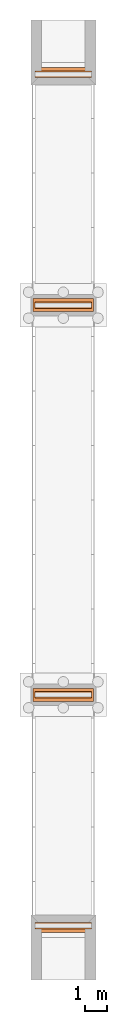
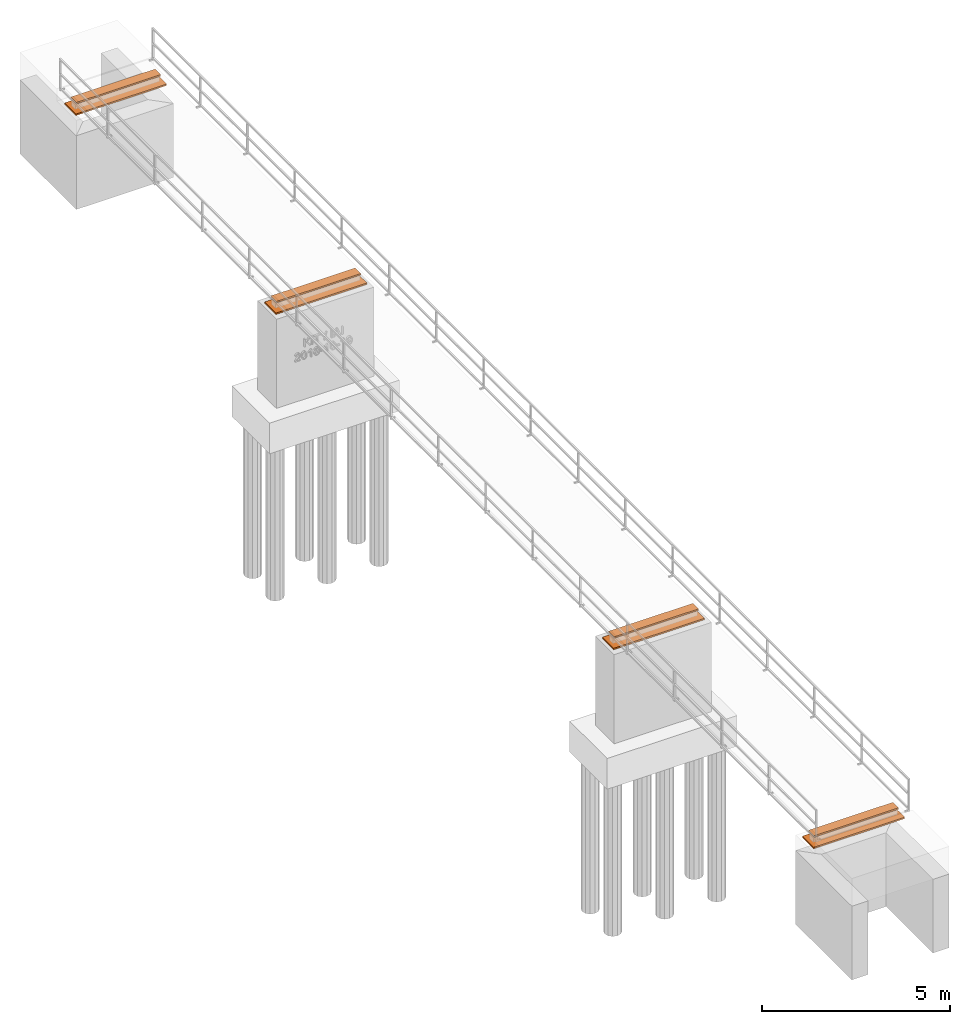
# Not in any storey, part 5 of 5: 4 vibration dampers, 4 vibration isolators.
"""IFC4X2 model written with IfcOpenShell, lengths in millimetres."""

import ifcopenshell
import ifcopenshell.guid

model = None  # the IFC model being written
_history = None  # IfcOwnerHistory: only IFC2X3 demands one
_inside = {}  # id of a spatial element -> (the spatial element, [elements in it])
_under = {}  # id of a project, library or spatial element -> (it, [spatial elements below it])
_declared = {}  # id of a project -> (the project, [libraries it declares])
_typed = {}  # id of a type object -> (the type object, [elements of that type])
_made_of = {}  # id of a material, layer set ... -> (it, [elements and type objects made of it])


def new_model(schema):
    """Start an empty IFC model of exactly this schema.

    Asked for "IFC4X3", IfcOpenShell would pick the latest addendum, in which some entities
    have other attributes; the version numbers below select the first issue.
    IFC2X3 requires an IfcOwnerHistory on every rooted entity: one is made here for all.
    """
    global model, _history
    if schema == "IFC4X3":
        model = ifcopenshell.file(schema_version=(4, 3, 0, 0))
    else:
        model = ifcopenshell.file(schema=schema)
    _inside.clear()
    _under.clear()
    _declared.clear()
    _typed.clear()
    _made_of.clear()
    _history = None
    if model.schema == "IFC2X3":
        org = make("IfcOrganization", Name="unknown")
        user = make(
            "IfcPersonAndOrganization",
            ThePerson=make("IfcPerson", FamilyName="unknown"),
            TheOrganization=org,
        )
        app = make(
            "IfcApplication",
            ApplicationDeveloper=org,
            Version="unknown",
            ApplicationFullName="unknown",
            ApplicationIdentifier="unknown",
        )
        _history = make(
            "IfcOwnerHistory",
            OwningUser=user,
            OwningApplication=app,
            ChangeAction="ADDED",
            CreationDate=0,
        )
    return model


def make(cls, **values):
    """One entity of the class cls with the attributes given. An attribute that is None is left unset."""
    return model.create_entity(
        cls, **{name: value for name, value in values.items() if value is not None}
    )


def entity(cls, *values):
    """Any entity or typed value of the class cls, its attributes in the order of the schema. None: left unset."""
    e = model.create_entity(cls)
    for i, value in enumerate(values):
        if value is not None:
            e[i] = value
    return e


def rooted(cls, **values):
    """An entity with a GlobalId (a new one), such as an element, a storey or a relation."""
    return make(cls, GlobalId=ifcopenshell.guid.new(), OwnerHistory=_history, **values)


def si_unit(unit_type, name, prefix=None):
    """IfcSIUnit, for example si_unit("LENGTHUNIT", "METRE", prefix="MILLI")."""
    return make("IfcSIUnit", UnitType=unit_type, Prefix=prefix, Name=name)


def converted_unit(unit_type, name, factor, base, dimensions=None, offset=None):
    """IfcConversionBasedUnit, such as the inch: factor (a typed value) times the base unit."""
    return make(
        "IfcConversionBasedUnit"
        if offset is None
        else "IfcConversionBasedUnitWithOffset",
        ConversionOffset=offset,
        Dimensions=None
        if dimensions is None
        else entity("IfcDimensionalExponents", *dimensions),
        UnitType=unit_type,
        Name=name,
        ConversionFactor=make(
            "IfcMeasureWithUnit", ValueComponent=factor, UnitComponent=base
        ),
    )


def assignment(units):
    """IfcUnitAssignment: the units of a project."""
    return None if units is None else make("IfcUnitAssignment", Units=units)


def point(xyz):
    """IfcCartesianPoint."""
    return None if xyz is None else make("IfcCartesianPoint", Coordinates=xyz)


def direction(xyz):
    """IfcDirection."""
    return None if xyz is None else make("IfcDirection", DirectionRatios=xyz)


def frame(location, z_axis=None, x_axis=None):
    """IfcAxis2Placement3D, a coordinate frame: its origin and axes. An axis left out is left unset."""
    return make(
        "IfcAxis2Placement3D",
        Location=point(location),
        Axis=direction(z_axis),
        RefDirection=direction(x_axis),
    )


def origin():
    """The frame at (0, 0, 0) with its axes left unset."""
    return frame((0.0, 0.0, 0.0))


def origin_with_axes():
    """The frame at (0, 0, 0) with the z axis (0, 0, 1) and the x axis (1, 0, 0) written out."""
    return frame((0.0, 0.0, 0.0), z_axis=(0.0, 0.0, 1.0), x_axis=(1.0, 0.0, 0.0))


def place(relative_to, where):
    """IfcLocalPlacement: puts the frame where relative to a parent placement (None: the world)."""
    return make(
        "IfcLocalPlacement", PlacementRelTo=relative_to, RelativePlacement=where
    )


def context(
    kind, dimensions, precision=None, world=None, true_north=None, identifier=None
):
    """IfcGeometricRepresentationContext, for example the 3D "Model" context."""
    return make(
        "IfcGeometricRepresentationContext",
        ContextIdentifier=identifier,
        ContextType=kind,
        CoordinateSpaceDimension=dimensions,
        Precision=precision,
        WorldCoordinateSystem=world,
        TrueNorth=true_north,
    )


def project(units=None, contexts=None):
    """IfcProject with its units and contexts."""
    return rooted(
        "IfcProject",
        Name="project",
        RepresentationContexts=contexts,
        UnitsInContext=assignment(units),
    )


def spatial(cls, under=None, at=None, **own):
    """A site, building, storey or space (cls), placed at a placement, below another one or the project."""
    s = rooted(cls, ObjectPlacement=at, **own)
    if under is not None:
        _under.setdefault(under.id(), (under, []))[1].append(s)
    return s


def faces_of(points, faces, orient=None, outer=None):
    """IfcFace entities. A face is a list of loops; a loop is a list of indices into points, from 0.

    orient and outer hold one flag for each loop. By default every Orientation is true, the
    first loop of a face is its IfcFaceOuterBound and the others are IfcFaceBound.
    """
    made = []
    for i, loops in enumerate(faces):
        bounds = []
        for j, loop in enumerate(loops):
            is_outer = j == 0 if outer is None else outer[i][j]
            bounds.append(
                make(
                    "IfcFaceOuterBound" if is_outer else "IfcFaceBound",
                    Bound=make("IfcPolyLoop", Polygon=[points[k] for k in loop]),
                    Orientation=True if orient is None else orient[i][j],
                )
            )
        made.append(make("IfcFace", Bounds=bounds))
    return made


def faceted_brep(points, faces, orient=None, outer=None, voids=None):
    """IfcFacetedBrep: a solid bounded by flat faces; with voids (closed shells), ...WithVoids."""
    shared = [point(p) for p in points]
    hull = make("IfcClosedShell", CfsFaces=faces_of(shared, faces, orient, outer))
    if voids is None:
        return make("IfcFacetedBrep", Outer=hull)
    return make(
        "IfcFacetedBrepWithVoids",
        Outer=hull,
        Voids=[
            make(cls, CfsFaces=faces_of(shared, fs, o, b)) for cls, fs, o, b in voids
        ],
    )


def shape(context_of_items, identifier, shape_type, items):
    """IfcShapeRepresentation: the items that make up one representation, for example the "Body"."""
    return make(
        "IfcShapeRepresentation",
        ContextOfItems=context_of_items,
        RepresentationIdentifier=identifier,
        RepresentationType=shape_type,
        Items=items,
    )


def made_of(thing, what):
    """Note that an element or type object is made of a material, layer set ...; save() writes the relation."""
    if what is not None:
        _made_of.setdefault(what.id(), (what, []))[1].append(thing)
    return thing


def element(
    cls,
    number,
    at=None,
    inside=None,
    cuts=None,
    type_object=None,
    material=None,
    context=None,
    identifier="Body",
    shape_type=None,
    held_by="IfcProductDefinitionShape",
    body=None,
    shapes=None,
    **own,
):
    """One element of the class cls, such as IfcWall. Its Tag is "e" and its number.

    at: its placement. inside: the storey or other place that contains it. cuts: it is an
    opening in that element (IfcRelVoidsElement). A single representation is given by context,
    identifier, shape_type and body (its items); several are given by shapes. held_by: the class
    of the entity that holds the representations. save() writes the other relations.
    """
    e = rooted(cls, Tag="e%d" % number, ObjectPlacement=at, **own)
    if body is not None:
        shapes = [shape(context, identifier, shape_type, body)]
    if shapes is not None:
        e.Representation = make(held_by, Representations=shapes)
    if inside is not None:
        _inside.setdefault(inside.id(), (inside, []))[1].append(e)
    if cuts is not None:
        rooted(
            "IfcRelVoidsElement", RelatingBuildingElement=cuts, RelatedOpeningElement=e
        )
    if type_object is not None:
        _typed.setdefault(type_object.id(), (type_object, []))[1].append(e)
    return made_of(e, material)


def aggregate(whole, parts):
    """IfcRelAggregates: a whole, such as a stair, and the parts it consists of."""
    return rooted("IfcRelAggregates", RelatingObject=whole, RelatedObjects=parts)


def save(model, path):
    """Write the relations noted so far, then the file.

    IfcRelAggregates (storeys below a building ...), IfcRelContainedInSpatialStructure (elements
    in a storey), IfcRelDefinesByType, IfcRelAssociatesMaterial and IfcRelDeclares: one each for
    every whole, place, type object, material and project.
    """
    for whole, parts in _under.values():
        aggregate(whole, parts)
    for where, things in _inside.values():
        rooted(
            "IfcRelContainedInSpatialStructure",
            RelatedElements=things,
            RelatingStructure=where,
        )
    for kind, things in _typed.values():
        rooted("IfcRelDefinesByType", RelatedObjects=things, RelatingType=kind)
    for what, things in _made_of.values():
        rooted("IfcRelAssociatesMaterial", RelatedObjects=things, RelatingMaterial=what)
    for by, libraries in _declared.values():
        rooted("IfcRelDeclares", RelatingContext=by, RelatedDefinitions=libraries)
    model.write(path)


model = new_model("IFC4X2")

# Units and contexts
model_context = context("Model", 3, precision=1e-05, world=origin(), true_north=direction((0.0, 1.0)))
ifc_project = project(units=[si_unit("LENGTHUNIT", "METRE", prefix="MILLI"), si_unit("AREAUNIT", "SQUARE_METRE"), si_unit("VOLUMEUNIT", "CUBIC_METRE"), converted_unit("PLANEANGLEUNIT", "DEGREE", entity("IfcPlaneAngleMeasure", 0.01745), si_unit("PLANEANGLEUNIT", "RADIAN"), dimensions=[0, 0, 0, 0, 0, 0, 0]), si_unit("SOLIDANGLEUNIT", "STERADIAN"), si_unit("MASSUNIT", "GRAM"), si_unit("TIMEUNIT", "SECOND"), si_unit("THERMODYNAMICTEMPERATUREUNIT", "DEGREE_CELSIUS"), si_unit("LUMINOUSINTENSITYUNIT", "LUMEN")], contexts=[model_context])

# Site, bridge, bridge part
placement = place(None, origin_with_axes())
site_placement = place(placement, frame((-19933.8083659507, -30174.99999999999, -13595.54569832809), z_axis=(0.0, 0.0, 1.0), x_axis=(1.0, 0.0, 0.0)))
site = spatial("IfcSite", under=ifc_project, at=site_placement, Name="Default Site", CompositionType="ELEMENT")
bridge_placement = place(placement, origin_with_axes())
bridge = spatial("IfcBridge", under=site, at=bridge_placement, Name="KIT - Bridge", CompositionType="ELEMENT")
bridge_part_1_placement = place(bridge_placement, origin_with_axes())
bridge_part_1 = spatial("IfcBridgePart", under=bridge, at=bridge_part_1_placement, Name="Substructure", CompositionType="ELEMENT", PredefinedType="SUPERSTRUCTURE")

# Vibration dampers
for number, where, z_axis, x_axis, name in (
    (1, (600.0, 18700.0, 2900.000000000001), (0.0, 0.0, 1.0), (1.0, 0.0, 0.0), "Vibration Damper 02 (viscous)"),
    (2, (600.0, 699.9999999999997, 2900.000000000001), (0.0, 0.0, 1.0), (1.0, 0.0, 0.0), "Vibration Damper 03 (viscous)"),
):
    element("IfcVibrationDamper", number, at=place(bridge_part_1_placement, frame(where, z_axis=z_axis, x_axis=x_axis)), inside=bridge_part_1, Name=name, PredefinedType="VISCOUS", context=model_context, shape_type="Brep", body=[
        faceted_brep([(0.0, 600.0000000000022, 0.0), (2800.0, 600.0000000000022, 0.0), (2800.0, 0.0, 0.0), (0.0, 0.0, 0.0), (2800.0, 0.0, 50.00000000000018), (0.0, 0.0, 50.00000000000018), (2800.0, 600.0000000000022, 50.00000000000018), (0.0, 600.0000000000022, 50.00000000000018)], [[[0, 1, 2, 3]], [[3, 2, 4, 5]], [[6, 7, 5, 4]], [[1, 0, 7, 6]], [[2, 1, 6, 4]], [[0, 3, 5, 7]]]),
    ])

# Vibration isolators
for number, where, z_axis, x_axis, name in (
    (3, (700.0, 18850.0, 3150.000000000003), (0.0, 0.0, 1.0), (1.0, 0.0, 0.0), "Vibration Isolator 02"),
    (4, (700.0, 850.0, 3150.000000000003), (0.0, 0.0, 1.0), (1.0, 0.0, 0.0), "Vibration Isolator 03"),
):
    element("IfcVibrationIsolator", number, at=place(bridge_part_1_placement, frame(where, z_axis=z_axis, x_axis=x_axis)), inside=bridge_part_1, Name=name, PredefinedType="BASE", context=model_context, shape_type="Brep", body=[
        faceted_brep([(2600.0, 0.0, -7.219114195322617e-13), (2600.0, 300.0000000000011, -7.219114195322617e-13), (2600.0, 300.0000000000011, 49.99999999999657), (2600.0, 0.0, 49.99999999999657), (0.0, 0.0, -7.219114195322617e-13), (0.0, 0.0, 49.99999999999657), (0.0, 300.0000000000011, -7.219114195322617e-13), (0.0, 300.0000000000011, 49.99999999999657)], [[[0, 1, 2, 3]], [[4, 0, 3, 5]], [[0, 4, 6, 1]], [[1, 6, 7, 2]], [[5, 3, 2, 7]], [[6, 4, 5, 7]]]),
    ])

# Bridge part
bridge_part_2_placement = place(bridge_placement, origin_with_axes())
bridge_part_2 = spatial("IfcBridgePart", under=bridge_part_1, at=bridge_part_2_placement, Name="Abutment 02", CompositionType="ELEMENT", PredefinedType="ABUTMENT")

# Vibration damper
vibration_damper_1_placement = place(bridge_part_2_placement, frame((600.0, 29375.00000000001, 2900.0), z_axis=(0.0, 0.0, 1.0), x_axis=(1.0, 0.0, 0.0)))
element("IfcVibrationDamper", 5, at=vibration_damper_1_placement, inside=bridge_part_2, Name="Vibration Damper 01 (viscous)", PredefinedType="VISCOUS", context=model_context, shape_type="Brep", body=[
    faceted_brep([(0.0, 600.0000000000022, 0.0), (2800.0, 600.0000000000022, 0.0), (2800.0, 0.0, 0.0), (0.0, 0.0, 0.0), (2800.0, 0.0, 50.00000000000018), (0.0, 0.0, 50.00000000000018), (2800.0, 600.0000000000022, 50.00000000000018), (0.0, 600.0000000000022, 50.00000000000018)], [[[0, 1, 2, 3]], [[3, 2, 4, 5]], [[6, 7, 5, 4]], [[1, 0, 7, 6]], [[2, 1, 6, 4]], [[0, 3, 5, 7]]]),
])

# Vibration isolator
vibration_isolator_1_placement = place(bridge_part_2_placement, frame((699.9999999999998, 29525.00000000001, 3150.000000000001), z_axis=(0.0, 0.0, 1.0), x_axis=(1.0, 0.0, 0.0)))
element("IfcVibrationIsolator", 6, at=vibration_isolator_1_placement, inside=bridge_part_2, Name="Vibration Isolator 01", PredefinedType="BASE", context=model_context, shape_type="Brep", body=[
    faceted_brep([(2600.0, 0.0, -7.219114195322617e-13), (2600.0, 300.0000000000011, -7.219114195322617e-13), (2600.0, 300.0000000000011, 49.99999999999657), (2600.0, 0.0, 49.99999999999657), (0.0, 0.0, -7.219114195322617e-13), (0.0, 0.0, 49.99999999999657), (0.0, 300.0000000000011, -7.219114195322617e-13), (0.0, 300.0000000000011, 49.99999999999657)], [[[0, 1, 2, 3]], [[4, 0, 3, 5]], [[0, 4, 6, 1]], [[1, 6, 7, 2]], [[5, 3, 2, 7]], [[6, 4, 5, 7]]]),
])

# Bridge part
bridge_part_3_placement = place(bridge_placement, origin_with_axes())
bridge_part_3 = spatial("IfcBridgePart", under=bridge_part_1, at=bridge_part_3_placement, Name="Abutment 01", CompositionType="ELEMENT", PredefinedType="ABUTMENT")

# Vibration damper
vibration_damper_2_placement = place(bridge_part_3_placement, frame((600.0, -9975.000000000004, 2900.000000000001), z_axis=(0.0, 0.0, 1.0), x_axis=(1.0, 0.0, 0.0)))
element("IfcVibrationDamper", 7, at=vibration_damper_2_placement, inside=bridge_part_3, Name="Vibration Damper 04 (viscous)", PredefinedType="VISCOUS", context=model_context, shape_type="Brep", body=[
    faceted_brep([(0.0, 600.0000000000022, 0.0), (2800.0, 600.0000000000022, 0.0), (2800.0, 0.0, 0.0), (0.0, 0.0, 0.0), (2800.0, 0.0, 50.00000000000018), (0.0, 0.0, 50.00000000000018), (2800.0, 600.0000000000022, 50.00000000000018), (0.0, 600.0000000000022, 50.00000000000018)], [[[0, 1, 2, 3]], [[3, 2, 4, 5]], [[6, 7, 5, 4]], [[1, 0, 7, 6]], [[2, 1, 6, 4]], [[0, 3, 5, 7]]]),
])

# Vibration isolator
vibration_isolator_2_placement = place(bridge_part_3_placement, frame((699.9999999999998, -9825.000000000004, 3150.000000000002), z_axis=(0.0, 0.0, 1.0), x_axis=(1.0, 0.0, 0.0)))
element("IfcVibrationIsolator", 8, at=vibration_isolator_2_placement, inside=bridge_part_3, Name="Vibration Isolator 04", PredefinedType="BASE", context=model_context, shape_type="Brep", body=[
    faceted_brep([(2600.0, 0.0, -7.219114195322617e-13), (2600.0, 300.0000000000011, -7.219114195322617e-13), (2600.0, 300.0000000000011, 49.99999999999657), (2600.0, 0.0, 49.99999999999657), (0.0, 0.0, -7.219114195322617e-13), (0.0, 0.0, 49.99999999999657), (0.0, 300.0000000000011, -7.219114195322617e-13), (0.0, 300.0000000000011, 49.99999999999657)], [[[0, 1, 2, 3]], [[4, 0, 3, 5]], [[0, 4, 6, 1]], [[1, 6, 7, 2]], [[5, 3, 2, 7]], [[6, 4, 5, 7]]]),
])

save(model, "model.ifc")
